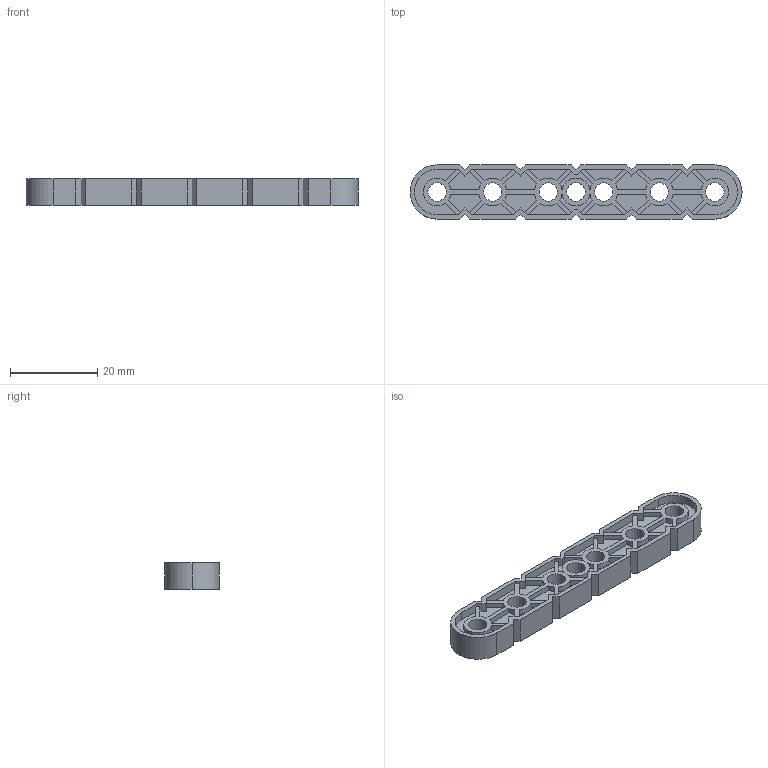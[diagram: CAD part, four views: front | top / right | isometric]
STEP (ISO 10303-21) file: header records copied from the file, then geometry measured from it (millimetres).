
FILE_DESCRIPTION (( 'STEP AP214' ), '1' );
FILE_NAME ('228-2500-005.STEP', '2021-02-18T18:40:55', ( '' ), ( '' ), 'SwSTEP 2.0', 'SolidWorks 2019', '' );
FILE_SCHEMA (( 'AUTOMOTIVE_DESIGN' ));
Length unit declared in the file: millimetre
Products named in the file (1): 228-2500-005
Bounding box: 75.9 x 12.4 x 6.1 mm (x, y, z)
Volume: 2894.8 mm3; surface area: 4540.2 mm2
Topology: 1 solids, 1 shells, 337 faces, 999 edges, 666 vertices
Faces by surface type: plane 248, cylinder 89
Entity records: 11273 total; most frequent: CARTESIAN_POINT 2003, ORIENTED_EDGE 1998, DIRECTION 1853, EDGE_CURVE 999, LINE 821, VECTOR 821, VERTEX_POINT 666, AXIS2_PLACEMENT_3D 516
